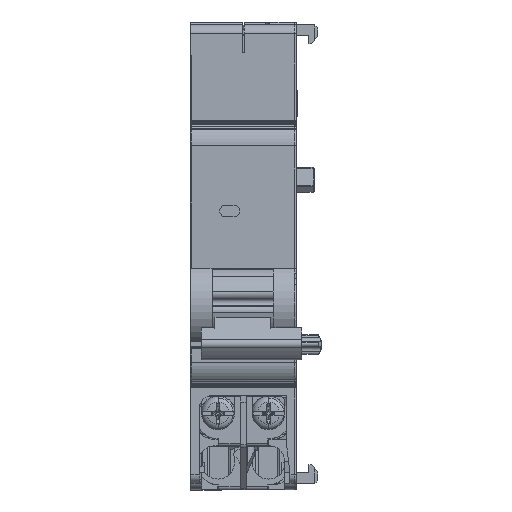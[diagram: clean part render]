
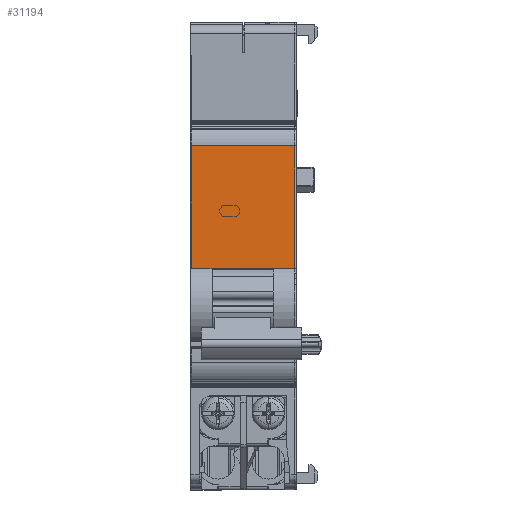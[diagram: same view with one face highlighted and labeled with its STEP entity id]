
A CAD part, top view. The second image highlights one B-rep face of the part: STEP entity #31194.
In plain terms, the highlighted planar face has unit normal (0, 0, 1) as drawn and (0, 1, 0) by its records, which use the part's own axes.
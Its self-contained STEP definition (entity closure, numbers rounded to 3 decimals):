
#1176 = VERTEX_POINT ( 'NONE', #24545 ) ;
#1268 = ORIENTED_EDGE ( 'NONE', *, *, #39850, .T. ) ;
#2784 = CARTESIAN_POINT ( 'NONE',  ( 18.461, 7.761, 1.1 ) ) ;
#4101 = ORIENTED_EDGE ( 'NONE', *, *, #50539, .F. ) ;
#4154 = DIRECTION ( 'NONE',  ( -1., 0., 0. ) ) ;
#6048 = DIRECTION ( 'NONE',  ( 1., 0., 0. ) ) ;
#9480 = CARTESIAN_POINT ( 'NONE',  ( 18.461, 7.761, 13.9 ) ) ;
#9873 = CARTESIAN_POINT ( 'NONE',  ( 39.122, 7.761, 17.5 ) ) ;
#13524 = LINE ( 'NONE', #42741, #50099 ) ;
#13585 = DIRECTION ( 'NONE',  ( 0., 0., -1. ) ) ;
#13758 = VERTEX_POINT ( 'NONE', #30460 ) ;
#14388 = LINE ( 'NONE', #38783, #46253 ) ;
#15296 = CARTESIAN_POINT ( 'NONE',  ( 18.708, 7.761, 0.1 ) ) ;
#16594 = LINE ( 'NONE', #65730, #35282 ) ;
#17154 = LINE ( 'NONE', #53566, #61430 ) ;
#24545 = CARTESIAN_POINT ( 'NONE',  ( 39.122, 7.761, 17.5 ) ) ;
#25678 = EDGE_CURVE ( 'NONE', #33357, #52525, #17154, .T. ) ;
#27082 = EDGE_CURVE ( 'NONE', #1176, #33357, #29466, .T. ) ;
#27897 = DIRECTION ( 'NONE',  ( -1., 0., 0. ) ) ;
#28427 = VECTOR ( 'NONE', #27897, 1000. ) ;
#29295 = LINE ( 'NONE', #30869, #59780 ) ;
#29466 = LINE ( 'NONE', #9873, #28427 ) ;
#30460 = CARTESIAN_POINT ( 'NONE',  ( 18.708, 7.761, 0. ) ) ;
#30869 = CARTESIAN_POINT ( 'NONE',  ( 18.461, 7.761, 0. ) ) ;
#31194 = ADVANCED_FACE ( 'NONE', ( #58381 ), #65529, .F. ) ;
#31861 = EDGE_LOOP ( 'NONE', ( #32652, #76602, #63032, #35707, #77370, #4101, #1268, #50673 ) ) ;
#32652 = ORIENTED_EDGE ( 'NONE', *, *, #42963, .F. ) ;
#32790 = DIRECTION ( 'NONE',  ( 0., 0., 1. ) ) ;
#33357 = VERTEX_POINT ( 'NONE', #71375 ) ;
#35282 = VECTOR ( 'NONE', #4154, 1000. ) ;
#35398 = EDGE_CURVE ( 'NONE', #52525, #39619, #13524, .T. ) ;
#35707 = ORIENTED_EDGE ( 'NONE', *, *, #25678, .F. ) ;
#36397 = AXIS2_PLACEMENT_3D ( 'NONE', #2784, #52392, #46389 ) ;
#38783 = CARTESIAN_POINT ( 'NONE',  ( 18.708, 7.761, 0. ) ) ;
#39619 = VERTEX_POINT ( 'NONE', #67400 ) ;
#39850 = EDGE_CURVE ( 'NONE', #51081, #45331, #16594, .T. ) ;
#42609 = CARTESIAN_POINT ( 'NONE',  ( 18.461, 7.761, 0. ) ) ;
#42741 = CARTESIAN_POINT ( 'NONE',  ( 18.461, 7.761, 13.9 ) ) ;
#42963 = EDGE_CURVE ( 'NONE', #56776, #13758, #29295, .T. ) ;
#44784 = LINE ( 'NONE', #69920, #70403 ) ;
#45331 = VERTEX_POINT ( 'NONE', #15296 ) ;
#46253 = VECTOR ( 'NONE', #32790, 1000. ) ;
#46389 = DIRECTION ( 'NONE',  ( 0., 0., -1. ) ) ;
#46571 = CARTESIAN_POINT ( 'NONE',  ( 39.122, 7.761, 0.1 ) ) ;
#50099 = VECTOR ( 'NONE', #73904, 1000. ) ;
#50539 = EDGE_CURVE ( 'NONE', #51081, #1176, #65982, .T. ) ;
#50673 = ORIENTED_EDGE ( 'NONE', *, *, #77365, .F. ) ;
#51081 = VERTEX_POINT ( 'NONE', #46571 ) ;
#52392 = DIRECTION ( 'NONE',  ( 0., -1., 0. ) ) ;
#52525 = VERTEX_POINT ( 'NONE', #9480 ) ;
#53566 = CARTESIAN_POINT ( 'NONE',  ( 18.461, 7.761, 17.5 ) ) ;
#54043 = CARTESIAN_POINT ( 'NONE',  ( 39.122, 7.761, 0.1 ) ) ;
#56776 = VERTEX_POINT ( 'NONE', #42609 ) ;
#58381 = FACE_OUTER_BOUND ( 'NONE', #31861, .T. ) ;
#58738 = EDGE_CURVE ( 'NONE', #39619, #56776, #44784, .T. ) ;
#59780 = VECTOR ( 'NONE', #6048, 1000. ) ;
#61430 = VECTOR ( 'NONE', #65126, 1000. ) ;
#63032 = ORIENTED_EDGE ( 'NONE', *, *, #35398, .F. ) ;
#65126 = DIRECTION ( 'NONE',  ( 0., 0., -1. ) ) ;
#65529 = PLANE ( 'NONE',  #36397 ) ;
#65730 = CARTESIAN_POINT ( 'NONE',  ( 39.122, 7.761, 0.1 ) ) ;
#65982 = LINE ( 'NONE', #54043, #71273 ) ;
#67400 = CARTESIAN_POINT ( 'NONE',  ( 18.461, 7.761, 3.6 ) ) ;
#69920 = CARTESIAN_POINT ( 'NONE',  ( 18.461, 7.761, 3.6 ) ) ;
#70403 = VECTOR ( 'NONE', #13585, 1000. ) ;
#70818 = DIRECTION ( 'NONE',  ( 0., 0., 1. ) ) ;
#71273 = VECTOR ( 'NONE', #70818, 1000. ) ;
#71375 = CARTESIAN_POINT ( 'NONE',  ( 18.461, 7.761, 17.5 ) ) ;
#73904 = DIRECTION ( 'NONE',  ( 0., 0., -1. ) ) ;
#76602 = ORIENTED_EDGE ( 'NONE', *, *, #58738, .F. ) ;
#77365 = EDGE_CURVE ( 'NONE', #13758, #45331, #14388, .T. ) ;
#77370 = ORIENTED_EDGE ( 'NONE', *, *, #27082, .F. ) ;
